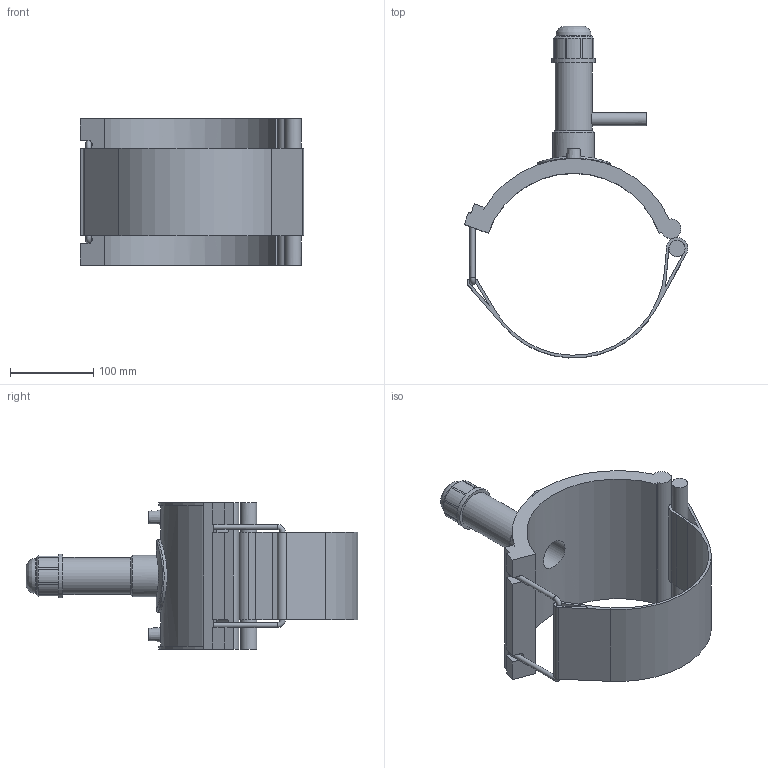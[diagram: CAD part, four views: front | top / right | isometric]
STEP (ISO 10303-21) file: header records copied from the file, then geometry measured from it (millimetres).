
FILE_DESCRIPTION(/* description */ ('PLASSON TAPPING SADDLE 8''''IPS x 1 1/2''''CTS'),/* implementation_level */ '2;1');
FILE_NAME(/* name */ 'C:\Dropbox\KIMPROJECTS-Inventor 2019\99-16-3568-Processing Inch\ASTM ElectroFusion 2021\5963B\5963BU03080005.ipt.stp',/* time_stamp */ '2021-08-30T09:56:41+03:00',/* author */ ('KIM'),/* organization */ (''),/* preprocessor_version */ 'ST-DEVELOPER v17.2',/* originating_system */ 'Autodesk Inventor 2019',/* authorisation */ '');
FILE_SCHEMA (('AUTOMOTIVE_DESIGN { 1 0 10303 214 3 1 1 }'));
Length unit declared in the file: millimetre
Products named in the file (1): 5963BU03080005
Bounding box: 268.63 x 398.85 x 176.02 mm (x, y, z)
Volume: 1294881.1 mm3; surface area: 296940.8 mm2
Topology: 1 solids, 1 shells, 122 faces, 315 edges, 206 vertices
Faces by surface type: plane 69, cylinder 38, cone 11, bspline 2, torus 2
Full cylindrical faces by diameter (mm): 4 x2, 6.124 x2, 10 x2, 12.64 x1, 15.8 x1, 19.347 x1, 36.742 x1, 41.99 x1, 44.615 x1, 49.864 x1, 52.488 x1, 87.48 x1
Entity records: 4300 total; most frequent: CARTESIAN_POINT 1180, DIRECTION 656, ORIENTED_EDGE 632, EDGE_CURVE 316, AXIS2_PLACEMENT_3D 238, VERTEX_POINT 206, LINE 180, VECTOR 180
